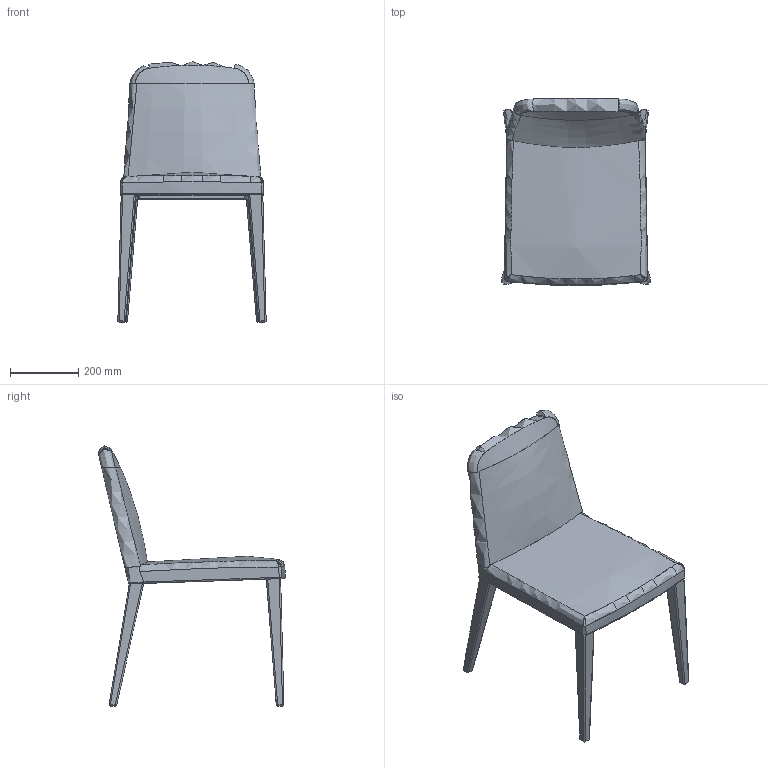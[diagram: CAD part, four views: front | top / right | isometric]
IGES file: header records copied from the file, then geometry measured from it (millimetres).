
Global section: file name: F:\Ordenador Silvio\Trabajo\Doos\Casia\Casia 02.igs; native system: Rhinoceros ( Oct 22 2019 ); preprocessor: Trout Lake IGES 012 Oct 22 2019; date: 191108.082708; units: millimetre
Bounding box: 433.79 x 546.82 x 762.8 mm (x, y, z)
Surface area: 956706.2 mm2 (no closed solid volume)
Topology: 0 solids, 0 shells, 130 faces, 3760 edges, 3742 vertices
Faces by surface type: bspline 130
